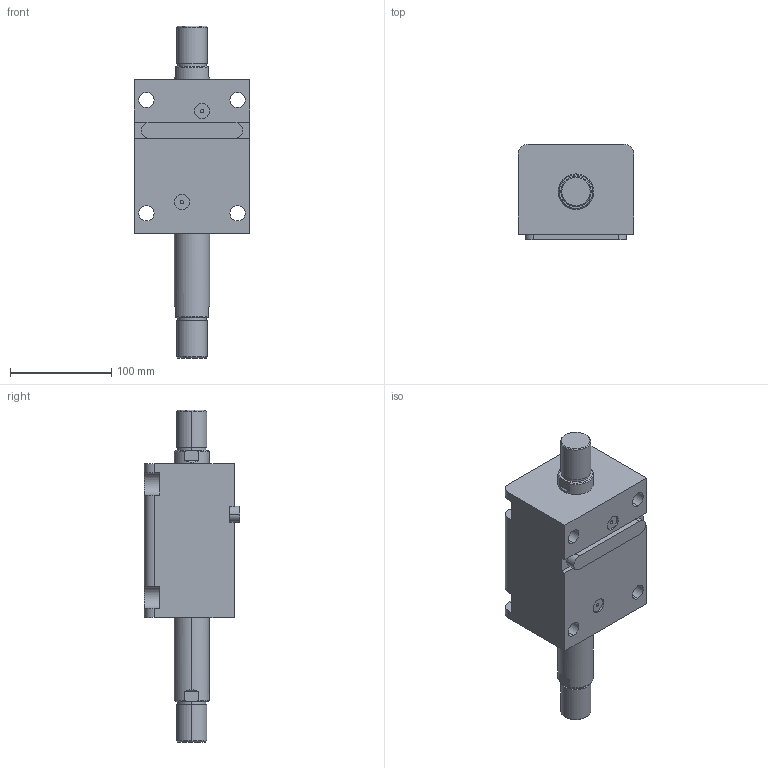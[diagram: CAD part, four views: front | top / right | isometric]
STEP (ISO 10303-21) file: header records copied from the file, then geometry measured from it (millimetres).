
FILE_DESCRIPTION (( 'STEP AP203' ), '1' );
FILE_NAME ('HTB-LWM63-70W.STEP', '2020-12-25T03:51:47', ( '微软用户' ), ( '微软中国' ), 'SwSTEP 2.0', 'SolidWorks 2012', '' );
FILE_SCHEMA (( 'CONFIG_CONTROL_DESIGN' ));
Length unit declared in the file: millimetre
Products named in the file (4): HTB-LWM63-70W; HTB-LWM63-70掛极; HTB-LWM63-70W活塞杆; HTB-LWM63-瑩
Assembly tree (3 placements, depth 2):
  HTB-LWM63-70W
    HTB-LWM63-70掛极
    HTB-LWM63-70W活塞杆
    HTB-LWM63-瑩
Bounding box: 114 x 94.5 x 328 mm (x, y, z)
Volume: 1461087.8 mm3; surface area: 171675.4 mm2
Topology: 3 solids, 3 shells, 113 faces, 273 edges, 178 vertices
Faces by surface type: cylinder 49, plane 48, torus 8, cone 8
Entity records: 3783 total; most frequent: CARTESIAN_POINT 626, DIRECTION 617, ORIENTED_EDGE 546, EDGE_CURVE 273, AXIS2_PLACEMENT_3D 241, VERTEX_POINT 178, LINE 135, VECTOR 135
